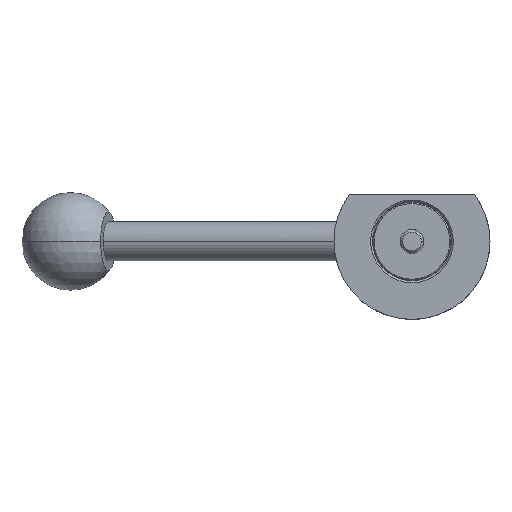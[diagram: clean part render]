
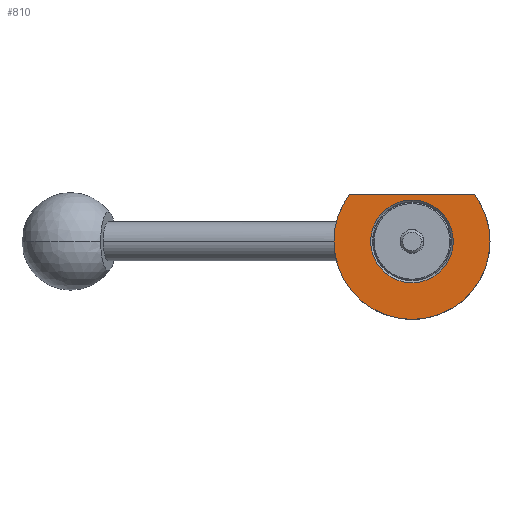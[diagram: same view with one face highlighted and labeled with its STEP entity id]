
A CAD part, front view. The second image highlights one B-rep face of the part: STEP entity #810.
In plain terms, the highlighted planar face has unit normal (0, -1, 0).
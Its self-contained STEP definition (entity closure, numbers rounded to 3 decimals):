
#9 = EDGE_LOOP ( 'NONE', ( #413, #1130 ) ) ;
#10 = DIRECTION ( 'NONE',  ( 0., 1., 0. ) ) ;
#37 = CIRCLE ( 'NONE', #260, 20. ) ;
#55 = VERTEX_POINT ( 'NONE', #605 ) ;
#66 = ORIENTED_EDGE ( 'NONE', *, *, #254, .F. ) ;
#82 = CARTESIAN_POINT ( 'NONE',  ( -20., -10., 0. ) ) ;
#128 = VECTOR ( 'NONE', #642, 1000. ) ;
#251 = DIRECTION ( 'NONE',  ( -1., 0., 0. ) ) ;
#254 = EDGE_CURVE ( 'NONE', #670, #1510, #37, .T. ) ;
#259 = DIRECTION ( 'NONE',  ( 0., 1., 0. ) ) ;
#260 = AXIS2_PLACEMENT_3D ( 'NONE', #881, #259, #251 ) ;
#286 = DIRECTION ( 'NONE',  ( 1., 0., 0. ) ) ;
#303 = CARTESIAN_POINT ( 'NONE',  ( 10.6, -10., 0. ) ) ;
#318 = CARTESIAN_POINT ( 'NONE',  ( 0., -10., 0. ) ) ;
#396 = VERTEX_POINT ( 'NONE', #303 ) ;
#413 = ORIENTED_EDGE ( 'NONE', *, *, #721, .T. ) ;
#442 = CARTESIAN_POINT ( 'NONE',  ( -10.6, -10., 0. ) ) ;
#452 = CARTESIAN_POINT ( 'NONE',  ( -10.6, -10., 0. ) ) ;
#490 = CARTESIAN_POINT ( 'NONE',  ( 0., -10., 0. ) ) ;
#504 = CARTESIAN_POINT ( 'NONE',  ( 0., -10., 0. ) ) ;
#524 = AXIS2_PLACEMENT_3D ( 'NONE', #504, #1607, #827 ) ;
#605 = CARTESIAN_POINT ( 'NONE',  ( 16.001, -10., 11.999 ) ) ;
#622 = AXIS2_PLACEMENT_3D ( 'NONE', #442, #1085, #286 ) ;
#642 = DIRECTION ( 'NONE',  ( -1., 0., 0. ) ) ;
#670 = VERTEX_POINT ( 'NONE', #781 ) ;
#697 = EDGE_CURVE ( 'NONE', #1863, #396, #856, .T. ) ;
#721 = EDGE_CURVE ( 'NONE', #396, #1863, #1482, .T. ) ;
#736 = EDGE_CURVE ( 'NONE', #55, #1932, #974, .T. ) ;
#781 = CARTESIAN_POINT ( 'NONE',  ( 20., -10., 0. ) ) ;
#810 = ADVANCED_FACE ( 'NONE', ( #1403, #1849 ), #1858, .T. ) ;
#827 = DIRECTION ( 'NONE',  ( -1., 0., 0. ) ) ;
#856 = CIRCLE ( 'NONE', #1991, 10.6 ) ;
#881 = CARTESIAN_POINT ( 'NONE',  ( 0., -10., 0. ) ) ;
#888 = EDGE_CURVE ( 'NONE', #1510, #1932, #1194, .T. ) ;
#960 = AXIS2_PLACEMENT_3D ( 'NONE', #1269, #983, #977 ) ;
#974 = LINE ( 'NONE', #1442, #128 ) ;
#977 = DIRECTION ( 'NONE',  ( -1., 0., 0. ) ) ;
#980 = EDGE_LOOP ( 'NONE', ( #1929, #1803, #1603, #66 ) ) ;
#983 = DIRECTION ( 'NONE',  ( 0., 1., 0. ) ) ;
#1004 = EDGE_CURVE ( 'NONE', #55, #670, #1129, .T. ) ;
#1045 = DIRECTION ( 'NONE',  ( -1., 0., 0. ) ) ;
#1059 = AXIS2_PLACEMENT_3D ( 'NONE', #490, #1750, #1596 ) ;
#1085 = DIRECTION ( 'NONE',  ( 0., -1., 0. ) ) ;
#1129 = CIRCLE ( 'NONE', #524, 20. ) ;
#1130 = ORIENTED_EDGE ( 'NONE', *, *, #697, .T. ) ;
#1194 = CIRCLE ( 'NONE', #960, 20. ) ;
#1269 = CARTESIAN_POINT ( 'NONE',  ( 0., -10., 0. ) ) ;
#1403 = FACE_BOUND ( 'NONE', #9, .T. ) ;
#1442 = CARTESIAN_POINT ( 'NONE',  ( -10.6, -10., 11.999 ) ) ;
#1482 = CIRCLE ( 'NONE', #1059, 10.6 ) ;
#1510 = VERTEX_POINT ( 'NONE', #82 ) ;
#1596 = DIRECTION ( 'NONE',  ( -1., 0., 0. ) ) ;
#1603 = ORIENTED_EDGE ( 'NONE', *, *, #888, .F. ) ;
#1607 = DIRECTION ( 'NONE',  ( 0., 1., 0. ) ) ;
#1750 = DIRECTION ( 'NONE',  ( 0., 1., 0. ) ) ;
#1803 = ORIENTED_EDGE ( 'NONE', *, *, #736, .T. ) ;
#1849 = FACE_OUTER_BOUND ( 'NONE', #980, .T. ) ;
#1858 = PLANE ( 'NONE',  #622 ) ;
#1859 = CARTESIAN_POINT ( 'NONE',  ( -16.001, -10., 11.999 ) ) ;
#1863 = VERTEX_POINT ( 'NONE', #452 ) ;
#1929 = ORIENTED_EDGE ( 'NONE', *, *, #1004, .F. ) ;
#1932 = VERTEX_POINT ( 'NONE', #1859 ) ;
#1991 = AXIS2_PLACEMENT_3D ( 'NONE', #318, #10, #1045 ) ;
